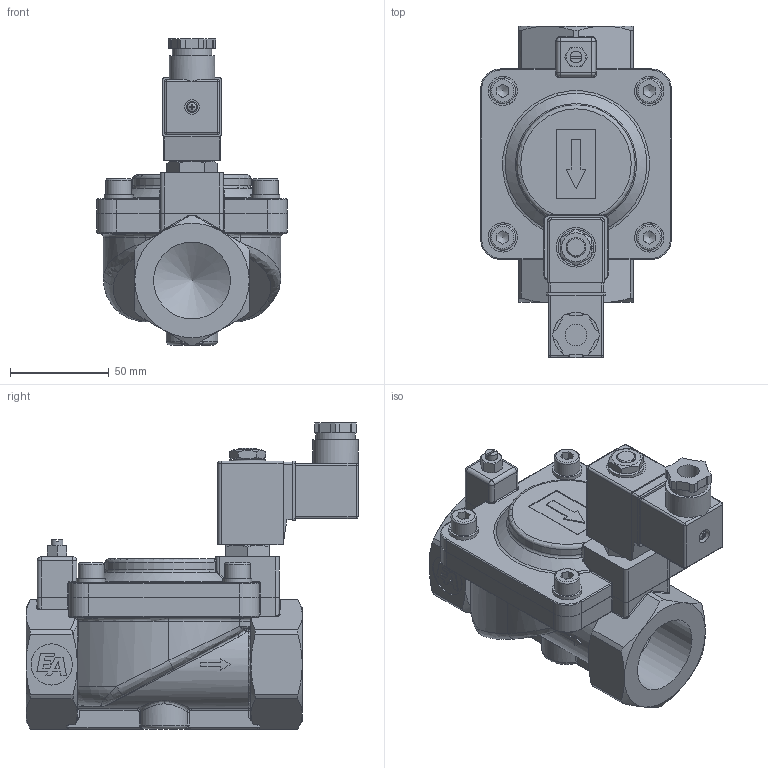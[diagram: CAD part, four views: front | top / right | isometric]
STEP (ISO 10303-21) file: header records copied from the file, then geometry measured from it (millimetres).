
FILE_DESCRIPTION(/* description */ ('2/2-Wege Magnetventl, servogesteuert, Messing, 11/4"'),/* implementation_level */ '2;1');
FILE_NAME(/* name */ 'U:\Eigene Dateien\Zeichnungen\STEP\MGMG2S12xx43032.stp',/* time_stamp */ '2019-02-19T08:05:53+01:00',/* author */ ('Hois'),/* organization */ (''),/* preprocessor_version */ 'ST-DEVELOPER v17',/* originating_system */ 'Autodesk Inventor 2019',/* authorisation */ '');
FILE_SCHEMA (('AUTOMOTIVE_DESIGN { 1 0 10303 214 3 1 1 }'));
Length unit declared in the file: millimetre
Products named in the file (8): MGMG2S12xx43032; MGMG2S12xx43032-GEH; SGxx43-S; DIN 128 - A10; ISO 8675 - M10 x 1; DIN 127 - A 8; STD-000179; ISO 7045 - M3 x 30 - 4.8 - H
Assembly tree (13 placements, depth 2):
  MGMG2S12xx43032
    MGMG2S12xx43032-GEH
    SGxx43-S
    DIN 128 - A10
    ISO 8675 - M10 x 1
    DIN 127 - A 8  x4
    STD-000179  x4
    ISO 7045 - M3 x 30 - 4.8 - H
Bounding box: 96.5 x 168.25 x 155.15 mm (x, y, z)
Volume: 646688.7 mm3; surface area: 89200.8 mm2
Topology: 13 solids, 13 shells, 739 faces, 1892 edges, 1190 vertices
Faces by surface type: plane 324, cylinder 200, cone 72, bspline 71, torus 52, sphere 20
Full cylindrical faces by diameter (mm): 2.729 x1, 3 x1, 6 x1, 6.647 x4, 7.3 x1, 8 x4, 8.5 x4, 8.917 x1, 9.73 x1, 10 x1, 11 x1, 13 x4, 14.5 x1, 14.75 x1, 17.75 x1, 20 x2, 20.892 x2, 23 x1, 38.952 x2
Entity records: 22798 total; most frequent: CARTESIAN_POINT 6632, ORIENTED_EDGE 3380, DIRECTION 3269, EDGE_CURVE 1690, AXIS2_PLACEMENT_3D 1242, VERTEX_POINT 1067, LINE 785, VECTOR 785
